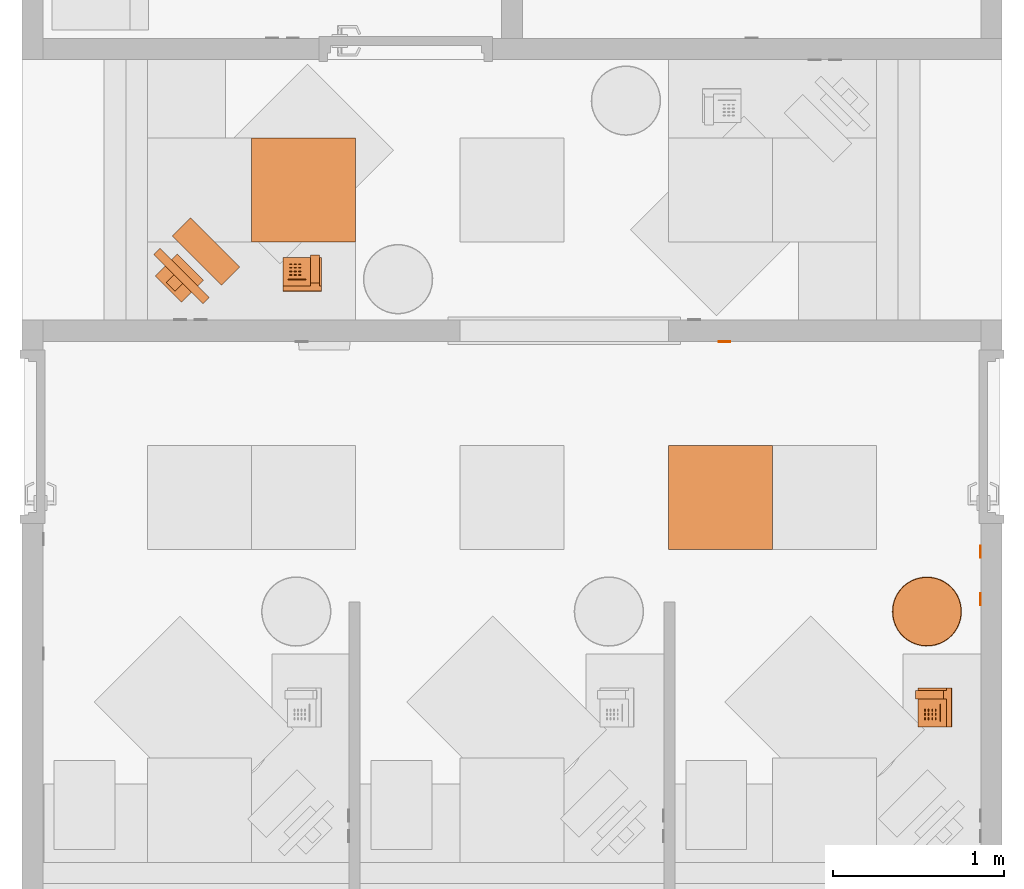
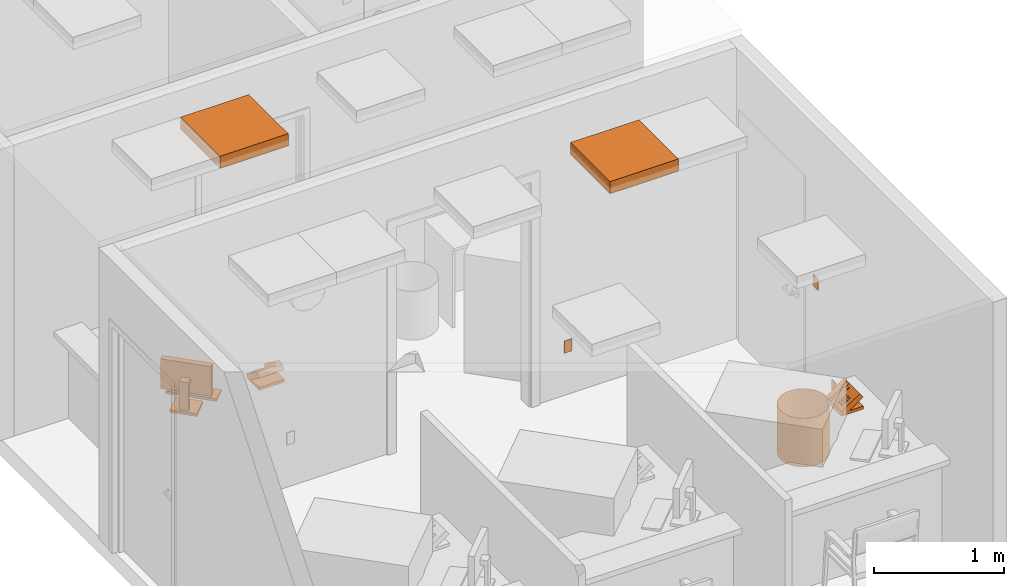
# One storey, part 16 of 20: 9 proxies.
"""IFC2X3 building model written with IfcOpenShell, lengths in feet."""

from ifc_helpers import new_model, entity, si_unit, converted_unit, derived_unit, direction, frame, frame_2d, origin, origin_2d_with_axis, place, context, subcontext, project, spatial, rectangle, circle, hollow_circle, extrude, faceted_brep, source, transform, mapped, type_object, type_shapes, element, save


model = new_model("IFC2X3")

# Units and contexts
model_context = context("Model", 3, precision=0.0001, world=origin(), true_north=direction((6.12303176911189e-17, 1.0)))
body_context = subcontext(model_context, "Body", "Model", "MODEL_VIEW")
ifc_project = project(units=[converted_unit("LENGTHUNIT", "FOOT", entity("IfcRatioMeasure", 0.3048), si_unit("LENGTHUNIT", "METRE"), dimensions=[1, 0, 0, 0, 0, 0, 0]), converted_unit("AREAUNIT", "SQUARE FOOT", entity("IfcRatioMeasure", 0.09290304), si_unit("AREAUNIT", "SQUARE_METRE"), dimensions=[2, 0, 0, 0, 0, 0, 0]), converted_unit("VOLUMEUNIT", "CUBIC FOOT", entity("IfcRatioMeasure", 0.028316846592), si_unit("VOLUMEUNIT", "CUBIC_METRE"), dimensions=[3, 0, 0, 0, 0, 0, 0]), converted_unit("PLANEANGLEUNIT", "DEGREE", entity("IfcRatioMeasure", 0.0174532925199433), si_unit("PLANEANGLEUNIT", "RADIAN"), dimensions=[0, 0, 0, 0, 0, 0, 0]), si_unit("MASSUNIT", "GRAM", prefix="KILO"), derived_unit("MASSDENSITYUNIT", [(si_unit("MASSUNIT", "GRAM", prefix="KILO"), 1), (si_unit("LENGTHUNIT", "METRE"), -3)]), si_unit("TIMEUNIT", "SECOND"), si_unit("FREQUENCYUNIT", "HERTZ"), si_unit("THERMODYNAMICTEMPERATUREUNIT", "DEGREE_CELSIUS"), derived_unit("THERMALTRANSMITTANCEUNIT", [(si_unit("MASSUNIT", "GRAM", prefix="KILO"), 1), (si_unit("THERMODYNAMICTEMPERATUREUNIT", "KELVIN"), -1), (si_unit("TIMEUNIT", "SECOND"), -3)]), derived_unit("VOLUMETRICFLOWRATEUNIT", [(si_unit("LENGTHUNIT", "METRE"), 3), (si_unit("TIMEUNIT", "SECOND"), -1)]), si_unit("ELECTRICCURRENTUNIT", "AMPERE"), si_unit("ELECTRICVOLTAGEUNIT", "VOLT"), si_unit("POWERUNIT", "WATT"), si_unit("FORCEUNIT", "NEWTON"), si_unit("ILLUMINANCEUNIT", "LUX"), si_unit("LUMINOUSFLUXUNIT", "LUMEN"), si_unit("LUMINOUSINTENSITYUNIT", "CANDELA"), derived_unit("USERDEFINED", [(si_unit("MASSUNIT", "GRAM", prefix="KILO"), -1), (si_unit("LENGTHUNIT", "METRE"), -2), (si_unit("TIMEUNIT", "SECOND"), 3), (si_unit("LUMINOUSFLUXUNIT", "LUMEN"), 1)]), derived_unit("LINEARVELOCITYUNIT", [(si_unit("LENGTHUNIT", "METRE"), 1), (si_unit("TIMEUNIT", "SECOND"), -1)]), si_unit("PRESSUREUNIT", "PASCAL"), derived_unit("USERDEFINED", [(si_unit("LENGTHUNIT", "METRE"), -2), (si_unit("MASSUNIT", "GRAM", prefix="KILO"), 1), (si_unit("TIMEUNIT", "SECOND"), -2)])], contexts=[model_context])

# Site, building, storey, space
site_placement = place(None, origin())
site = spatial("IfcSite", under=ifc_project, at=site_placement, Name="Default", CompositionType="ELEMENT")
building_placement = place(site_placement, origin())
building = spatial("IfcBuilding", under=site, at=building_placement, Name="OUTPATIENT / PACT CLINIC (Ch. 265)", CompositionType="ELEMENT")
storey_placement = place(building_placement, origin())
storey = spatial("IfcBuildingStorey", under=building, at=storey_placement, Name="DATUM", CompositionType="ELEMENT", Elevation=0.0)
space_1_placement = place(storey_placement, origin())
space_1 = spatial("IfcSpace", under=storey, at=space_1_placement, Name="RCP03", CompositionType="ELEMENT", InteriorOrExteriorSpace="INTERNAL")

# Proxy
building_element_proxy_type_1 = type_object("IfcBuildingElementProxyType", Name="A1015 Telephone_Desk Multi-Line", PredefinedType="NOTDEFINED")
shared_shape_1 = source(origin(), body_context, "Body", "Brep", [
    faceted_brep([(0.700520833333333, 0.261320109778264, 0.451787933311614), (0.700520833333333, 0.572560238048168, 0.223329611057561), (0.700520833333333, 0.538332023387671, 0.176698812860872), (0.700520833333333, 0.629478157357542, 0.109798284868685), (0.700520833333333, 0.699689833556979, 0.205455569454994), (0.700520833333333, 0.163563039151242, 0.598968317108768), (0.700520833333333, 0.0904130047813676, 0.494499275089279), (0.700520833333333, 0.225161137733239, 0.400147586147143), (0.532645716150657, 0.261320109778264, 0.451787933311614), (0.532645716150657, 0.225161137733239, 0.400147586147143), (0.532645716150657, 0.0904130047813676, 0.494499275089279), (0.532645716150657, 0.163563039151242, 0.598968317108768), (0.532645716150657, 0.699689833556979, 0.205455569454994), (0.532645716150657, 0.629478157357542, 0.109798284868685), (0.532645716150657, 0.538332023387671, 0.176698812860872), (0.532645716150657, 0.572560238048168, 0.223329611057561)], [[[0, 1, 2, 3, 4, 5, 6, 7]], [[8, 9, 10, 11, 12, 13, 14, 15]], [[1, 0, 8, 15]], [[2, 1, 15, 14]], [[3, 2, 14, 13]], [[4, 3, 13, 12]], [[5, 4, 12, 11]], [[6, 5, 11, 10]], [[7, 6, 10, 9]], [[0, 7, 9, 8]]]),
    faceted_brep([(0.297587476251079, 0.457472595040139, 0.295395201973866), (0.344462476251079, 0.457472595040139, 0.295395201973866), (0.344462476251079, 0.49615327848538, 0.268310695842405), (0.297587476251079, 0.49615327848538, 0.268310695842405), (0.297587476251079, 0.442535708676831, 0.274063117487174), (0.297587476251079, 0.481216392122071, 0.246978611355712), (0.344462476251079, 0.481216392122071, 0.246978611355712), (0.344462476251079, 0.442535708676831, 0.274063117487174)], [[[0, 1, 2, 3]], [[4, 5, 6, 7]], [[1, 0, 4, 7]], [[2, 1, 7, 6]], [[3, 2, 6, 5]], [[0, 3, 5, 4]]]),
    faceted_brep([(0.29758747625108, 0.525735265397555, 0.247597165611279), (0.34446247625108, 0.525735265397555, 0.247597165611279), (0.34446247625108, 0.564415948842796, 0.220512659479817), (0.29758747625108, 0.564415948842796, 0.220512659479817), (0.29758747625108, 0.510798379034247, 0.226265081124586), (0.29758747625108, 0.549479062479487, 0.199180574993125), (0.34446247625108, 0.549479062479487, 0.199180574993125), (0.34446247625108, 0.510798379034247, 0.226265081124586)], [[[0, 1, 2, 3]], [[4, 5, 6, 7]], [[1, 0, 4, 7]], [[2, 1, 7, 6]], [[3, 2, 6, 5]], [[0, 3, 5, 4]]]),
    faceted_brep([(0.214254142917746, 0.525735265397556, 0.247597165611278), (0.261129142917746, 0.525735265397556, 0.247597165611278), (0.261129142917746, 0.564415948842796, 0.220512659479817), (0.214254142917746, 0.564415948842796, 0.220512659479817), (0.214254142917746, 0.510798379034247, 0.226265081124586), (0.214254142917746, 0.549479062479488, 0.199180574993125), (0.261129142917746, 0.549479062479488, 0.199180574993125), (0.261129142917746, 0.510798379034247, 0.226265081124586)], [[[0, 1, 2, 3]], [[4, 5, 6, 7]], [[1, 0, 4, 7]], [[2, 1, 7, 6]], [[3, 2, 6, 5]], [[0, 3, 5, 4]]]),
    faceted_brep([(0.130920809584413, 0.525735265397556, 0.247597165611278), (0.177795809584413, 0.525735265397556, 0.247597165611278), (0.177795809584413, 0.564415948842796, 0.220512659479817), (0.130920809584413, 0.564415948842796, 0.220512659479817), (0.130920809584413, 0.510798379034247, 0.226265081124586), (0.130920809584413, 0.549479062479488, 0.199180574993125), (0.177795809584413, 0.549479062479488, 0.199180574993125), (0.177795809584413, 0.510798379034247, 0.226265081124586)], [[[0, 1, 2, 3]], [[4, 5, 6, 7]], [[1, 0, 4, 7]], [[2, 1, 7, 6]], [[3, 2, 6, 5]], [[0, 3, 5, 4]]]),
    faceted_brep([(0.130920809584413, 0.45747259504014, 0.295395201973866), (0.177795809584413, 0.45747259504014, 0.295395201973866), (0.177795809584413, 0.496153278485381, 0.268310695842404), (0.130920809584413, 0.496153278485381, 0.268310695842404), (0.130920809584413, 0.442535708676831, 0.274063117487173), (0.130920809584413, 0.481216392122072, 0.246978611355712), (0.177795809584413, 0.481216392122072, 0.246978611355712), (0.177795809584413, 0.442535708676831, 0.274063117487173)], [[[0, 1, 2, 3]], [[4, 5, 6, 7]], [[1, 0, 4, 7]], [[2, 1, 7, 6]], [[3, 2, 6, 5]], [[0, 3, 5, 4]]]),
    faceted_brep([(0.214254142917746, 0.389209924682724, 0.343193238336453), (0.261129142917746, 0.389209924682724, 0.343193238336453), (0.261129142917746, 0.427890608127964, 0.316108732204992), (0.214254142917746, 0.427890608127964, 0.316108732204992), (0.214254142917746, 0.374273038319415, 0.321861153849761), (0.214254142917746, 0.412953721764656, 0.2947766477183), (0.261129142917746, 0.412953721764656, 0.2947766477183), (0.261129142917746, 0.374273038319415, 0.321861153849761)], [[[0, 1, 2, 3]], [[4, 5, 6, 7]], [[1, 0, 4, 7]], [[2, 1, 7, 6]], [[3, 2, 6, 5]], [[0, 3, 5, 4]]]),
    faceted_brep([(0.130920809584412, 0.389209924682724, 0.343193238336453), (0.177795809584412, 0.389209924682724, 0.343193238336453), (0.177795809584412, 0.427890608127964, 0.316108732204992), (0.130920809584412, 0.427890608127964, 0.316108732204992), (0.130920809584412, 0.374273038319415, 0.321861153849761), (0.130920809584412, 0.412953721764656, 0.2947766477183), (0.177795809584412, 0.412953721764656, 0.2947766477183), (0.177795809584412, 0.374273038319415, 0.321861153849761)], [[[0, 1, 2, 3]], [[4, 5, 6, 7]], [[1, 0, 4, 7]], [[2, 1, 7, 6]], [[3, 2, 6, 5]], [[0, 3, 5, 4]]]),
    faceted_brep([(0.214254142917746, 0.457472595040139, 0.295395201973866), (0.261129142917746, 0.457472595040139, 0.295395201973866), (0.261129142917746, 0.49615327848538, 0.268310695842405), (0.214254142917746, 0.49615327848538, 0.268310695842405), (0.214254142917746, 0.442535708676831, 0.274063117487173), (0.214254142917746, 0.481216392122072, 0.246978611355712), (0.261129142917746, 0.481216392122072, 0.246978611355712), (0.261129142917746, 0.442535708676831, 0.274063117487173)], [[[0, 1, 2, 3]], [[4, 5, 6, 7]], [[1, 0, 4, 7]], [[2, 1, 7, 6]], [[3, 2, 6, 5]], [[0, 3, 5, 4]]]),
    faceted_brep([(0.297587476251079, 0.389209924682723, 0.343193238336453), (0.344462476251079, 0.389209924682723, 0.343193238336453), (0.344462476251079, 0.427890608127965, 0.316108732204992), (0.297587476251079, 0.427890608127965, 0.316108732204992), (0.297587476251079, 0.374273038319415, 0.321861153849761), (0.297587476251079, 0.412953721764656, 0.294776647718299), (0.344462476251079, 0.412953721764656, 0.294776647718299), (0.344462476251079, 0.374273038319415, 0.321861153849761)], [[[0, 1, 2, 3]], [[4, 5, 6, 7]], [[1, 0, 4, 7]], [[2, 1, 7, 6]], [[3, 2, 6, 5]], [[0, 3, 5, 4]]]),
    faceted_brep([(0.130920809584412, 0.320947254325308, 0.39099127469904), (0.177795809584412, 0.320947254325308, 0.39099127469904), (0.177795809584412, 0.359627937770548, 0.363906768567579), (0.130920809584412, 0.359627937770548, 0.363906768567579), (0.130920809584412, 0.306010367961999, 0.369659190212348), (0.130920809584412, 0.34469105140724, 0.342574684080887), (0.177795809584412, 0.34469105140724, 0.342574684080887), (0.177795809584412, 0.306010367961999, 0.369659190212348)], [[[0, 1, 2, 3]], [[4, 5, 6, 7]], [[1, 0, 4, 7]], [[2, 1, 7, 6]], [[3, 2, 6, 5]], [[0, 3, 5, 4]]]),
    faceted_brep([(0.214254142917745, 0.320947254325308, 0.39099127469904), (0.261129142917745, 0.320947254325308, 0.39099127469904), (0.261129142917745, 0.359627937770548, 0.363906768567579), (0.214254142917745, 0.359627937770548, 0.363906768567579), (0.214254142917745, 0.306010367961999, 0.369659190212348), (0.214254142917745, 0.34469105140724, 0.342574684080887), (0.261129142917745, 0.34469105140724, 0.342574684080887), (0.261129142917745, 0.306010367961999, 0.369659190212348)], [[[0, 1, 2, 3]], [[4, 5, 6, 7]], [[1, 0, 4, 7]], [[2, 1, 7, 6]], [[3, 2, 6, 5]], [[0, 3, 5, 4]]]),
    faceted_brep([(0.297587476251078, 0.320947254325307, 0.390991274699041), (0.344462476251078, 0.320947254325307, 0.390991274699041), (0.344462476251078, 0.359627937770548, 0.363906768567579), (0.297587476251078, 0.359627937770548, 0.363906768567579), (0.297587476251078, 0.306010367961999, 0.369659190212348), (0.297587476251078, 0.34469105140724, 0.342574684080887), (0.344462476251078, 0.34469105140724, 0.342574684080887), (0.344462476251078, 0.306010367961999, 0.369659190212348)], [[[0, 1, 2, 3]], [[4, 5, 6, 7]], [[1, 0, 4, 7]], [[2, 1, 7, 6]], [[3, 2, 6, 5]], [[0, 3, 5, 4]]]),
    faceted_brep([(0.739583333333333, 0.584951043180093, 0.0535656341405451), (0.739583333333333, 0.648788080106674, 0.129643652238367), (0.739583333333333, 0.102686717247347, 0.512027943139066), (0.739583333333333, 0.00709064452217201, 0.375502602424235), (0.739583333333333, 0.416666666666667, 0.0887143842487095), (0.739583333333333, 0.0, 0.0887143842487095), (0.739583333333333, 0.0, 0.0), (0.739583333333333, 0.648788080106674, 0.0), (0.0, 0.416666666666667, 0.0887143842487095), (0.0, 0.00709064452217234, 0.375502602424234), (0.0, 0.102686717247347, 0.512027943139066), (0.0, 0.648788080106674, 0.129643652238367), (0.0, 0.584951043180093, 0.0535656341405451), (0.0, 0.648788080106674, 0.0), (0.0, 0.0, 0.0), (0.0, 0.0, 0.0887143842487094), (0.532645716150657, 0.648788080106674, 0.129643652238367), (0.532645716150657, 0.631984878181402, 0.109618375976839), (0.699312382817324, 0.631984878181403, 0.10961837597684), (0.699312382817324, 0.648788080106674, 0.129643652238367), (0.699312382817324, 0.597591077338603, 0.165492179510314), (0.688147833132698, 0.205080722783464, 0.44033088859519), (0.68766856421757, 0.582470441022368, 0.176079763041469), (0.676024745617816, 0.567349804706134, 0.186667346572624), (0.67289677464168, 0.217573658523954, 0.431583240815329), (0.657645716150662, 0.230066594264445, 0.422835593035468), (0.65691415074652, 0.558715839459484, 0.192712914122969), (0.637803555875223, 0.550081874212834, 0.198758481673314), (0.636812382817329, 0.234639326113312, 0.41963373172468), (0.615979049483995, 0.239212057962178, 0.416431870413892), (0.61597904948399, 0.550081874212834, 0.198758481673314), (0.594154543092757, 0.550081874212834, 0.198758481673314), (0.595145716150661, 0.234639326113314, 0.419633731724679), (0.574312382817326, 0.230066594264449, 0.422835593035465), (0.441208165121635, 0.234600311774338, 0.419661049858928), (0.575043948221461, 0.558715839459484, 0.192712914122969), (0.555933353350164, 0.567349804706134, 0.186667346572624), (0.542406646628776, 0.58491555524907, 0.174367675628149), (0.532645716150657, 0.597591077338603, 0.165492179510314), (0.0978645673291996, 0.234600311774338, 0.419661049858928), (0.0978645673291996, 0.166337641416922, 0.467459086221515), (0.532645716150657, 0.102686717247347, 0.512027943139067), (0.441208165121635, 0.166337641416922, 0.467459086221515), (0.532645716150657, 0.170949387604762, 0.46422990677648), (0.538227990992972, 0.188015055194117, 0.452280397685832), (0.543810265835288, 0.205080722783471, 0.440330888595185), (0.559061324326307, 0.21757365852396, 0.431583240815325), (0.693730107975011, 0.188015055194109, 0.452280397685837), (0.699312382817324, 0.170949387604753, 0.464229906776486), (0.699312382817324, 0.102686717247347, 0.512027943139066), (0.699312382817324, 0.0877498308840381, 0.490695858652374), (0.532645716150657, 0.0877498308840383, 0.490695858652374), (0.0978645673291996, 0.151400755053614, 0.446127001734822), (0.441208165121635, 0.151400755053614, 0.446127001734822), (0.441208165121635, 0.219663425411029, 0.398328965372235), (0.0978645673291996, 0.219663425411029, 0.398328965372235), (0.597435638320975, 0.222563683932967, 0.396298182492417), (0.580728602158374, 0.215973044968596, 0.400912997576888), (0.564021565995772, 0.209382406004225, 0.40552781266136), (0.55245993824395, 0.197506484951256, 0.413843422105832), (0.540898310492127, 0.185630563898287, 0.422159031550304), (0.536626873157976, 0.170300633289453, 0.432893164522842), (0.532645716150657, 0.156012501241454, 0.442897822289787), (0.699312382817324, 0.156012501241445, 0.442897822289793), (0.695331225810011, 0.170300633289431, 0.432893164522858), (0.691059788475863, 0.18563056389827, 0.422159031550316), (0.679498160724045, 0.197506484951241, 0.413843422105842), (0.667936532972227, 0.209382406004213, 0.405527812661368), (0.651229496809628, 0.215973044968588, 0.400912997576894), (0.634522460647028, 0.222563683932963, 0.39629818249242), (0.615979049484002, 0.222563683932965, 0.396298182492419), (0.532645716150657, 0.582654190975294, 0.144160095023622), (0.54428953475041, 0.56753355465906, 0.154747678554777), (0.555933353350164, 0.552412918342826, 0.165335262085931), (0.575043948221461, 0.543778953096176, 0.171380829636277), (0.594154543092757, 0.535144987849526, 0.177426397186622), (0.61597904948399, 0.535144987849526, 0.177426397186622), (0.637803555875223, 0.535144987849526, 0.177426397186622), (0.65691415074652, 0.543778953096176, 0.171380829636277), (0.676024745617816, 0.552412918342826, 0.165335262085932), (0.689551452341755, 0.569978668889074, 0.153035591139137), (0.699312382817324, 0.582654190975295, 0.144160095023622)], [[[0, 1, 2, 3, 4, 5, 6, 7]], [[8, 9, 10, 11, 12, 13, 14, 15]], [[0, 7, 13, 12]], [[0, 12, 11, 16, 17, 18, 19, 1]], [[1, 19, 20]], [[21, 1, 20]], [[2, 1, 21]], [[21, 20, 22]], [[21, 22, 23]], [[23, 24, 21]], [[23, 25, 24]], [[25, 23, 26]], [[25, 26, 27]], [[27, 28, 25]], [[27, 29, 28]], [[29, 27, 30]], [[29, 30, 31]], [[31, 32, 29]], [[31, 33, 32]], [[34, 33, 31]], [[34, 31, 35]], [[34, 35, 36]], [[34, 36, 37]], [[34, 37, 38]], [[38, 39, 34]], [[39, 38, 11]], [[38, 16, 11]], [[39, 11, 10]], [[10, 40, 39]], [[10, 41, 40]], [[40, 41, 42]], [[42, 41, 43]], [[42, 43, 44]], [[42, 44, 45]], [[34, 45, 46]], [[42, 45, 34]], [[34, 46, 33]], [[2, 21, 47]], [[2, 47, 48]], [[2, 48, 49]], [[2, 49, 50, 51, 41, 10, 9, 3]], [[4, 3, 9, 8]], [[5, 4, 8, 15]], [[6, 5, 15, 14]], [[7, 6, 14, 13]], [[52, 53, 54, 55]], [[56, 57, 58, 59, 60, 61, 62, 51, 50, 63, 64, 65, 66, 67, 68, 69, 70]], [[17, 71, 72, 73, 74, 75, 76, 77, 78, 79, 80, 81, 18]], [[52, 40, 42, 53]], [[54, 53, 42, 34]], [[54, 34, 39, 55]], [[55, 39, 40, 52]], [[50, 49, 48, 63]], [[18, 81, 20, 19]], [[64, 63, 48]], [[56, 29, 32]], [[33, 57, 32]], [[66, 24, 67]], [[64, 47, 65]], [[21, 65, 47]], [[28, 68, 25]], [[65, 21, 66]], [[68, 28, 69]], [[47, 64, 48]], [[56, 32, 57]], [[45, 60, 59]], [[45, 59, 46]], [[56, 70, 69, 29]], [[33, 58, 57]], [[45, 44, 60]], [[43, 62, 61]], [[33, 46, 58]], [[24, 66, 21]], [[58, 46, 59]], [[44, 43, 61]], [[24, 25, 67]], [[29, 69, 28]], [[68, 67, 25]], [[61, 60, 44]], [[62, 43, 41, 51]], [[17, 16, 38, 71]], [[73, 72, 71, 38, 37, 36]], [[20, 81, 80, 79, 23, 22]], [[36, 35, 31, 75, 74, 73]], [[77, 76, 75, 31, 30, 27]], [[27, 26, 23, 79, 78, 77]]]),
])
type_shapes(building_element_proxy_type_1, [shared_shape_1])
proxy_1_placement = place(space_1_placement, frame((73.7097765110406, -862.322290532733, 2.49999999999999), z_axis=(0.0, 0.0, 1.0), x_axis=(0.0, 1.0, 0.0)))
element("IfcBuildingElementProxy", 1, at=proxy_1_placement, inside=space_1, type_object=building_element_proxy_type_1, Name="A1015 - Telephone, Desk, Multiple Line:A1015 Telephone_Desk Multi-Line", ObjectType="A1015 Telephone_Desk Multi-Line", context=body_context, shape_type="MappedRepresentation", body=[
    mapped(shared_shape_1, transform((0.0, 0.0, 0.0), scale=1.0)),
])

# Space
space_2_placement = place(storey_placement, origin())
space_2 = spatial("IfcSpace", under=storey, at=space_2_placement, CompositionType="ELEMENT", InteriorOrExteriorSpace="INTERNAL")

# Proxies
proxy_2_placement = place(space_2_placement, frame((60.8666622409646, -853.96425242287, 2.49999999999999)))
element("IfcBuildingElementProxy", 2, at=proxy_2_placement, inside=space_2, type_object=building_element_proxy_type_1, Name="A1015 - Telephone, Desk, Multiple Line:A1015 Telephone_Desk Multi-Line", ObjectType="A1015 Telephone_Desk Multi-Line", context=body_context, shape_type="MappedRepresentation", body=[
    mapped(shared_shape_1, transform((0.0, 0.0, 0.0), scale=1.0)),
])
building_element_proxy_type_2 = type_object("IfcBuildingElementProxyType", Name="F2000 - Basket, Wastepaper", PredefinedType="NOTDEFINED")
shared_shape_2 = source(origin(), body_context, "Body", "SweptSolid", [
    extrude(circle(Radius=0.666666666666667, at=frame_2d((0.0, -1.07702971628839e-15), x_axis=(1.0, 0.0))), origin(), (0.0, 0.0, 1.0), 0.0104166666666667),
    extrude(hollow_circle(Radius=0.666666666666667, WallThickness=0.0104166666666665, at=frame_2d((0.0, -1.07702971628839e-15), x_axis=(1.0, 0.0))), frame((0.0, 0.0, 0.0104166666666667)), (0.0, 0.0, 1.0), 1.48958333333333),
])
type_shapes(building_element_proxy_type_2, [shared_shape_2])
proxy_3_placement = place(space_1_placement, frame((73.2276550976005, -860.111353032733, 0.0), z_axis=(0.0, 0.0, 1.0), x_axis=(-1.0, 0.0, 0.0)))
element("IfcBuildingElementProxy", 3, at=proxy_3_placement, inside=space_1, type_object=building_element_proxy_type_2, Name="F2000 - Basket, Wastepaper:F2000 - Basket, Wastepaper", ObjectType="F2000 - Basket, Wastepaper", context=body_context, shape_type="MappedRepresentation", body=[
    mapped(shared_shape_2, transform((0.0, 0.0, 0.0), scale=1.0)),
])
building_element_proxy_type_3 = type_object("IfcBuildingElementProxyType", Name="M1801 - Computer with Flat Panel Monitor", PredefinedType="NOTDEFINED")
shared_shape_3 = source(origin(), body_context, "Body", "Brep", [
    faceted_brep([(0.666666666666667, -0.5625, 0.0), (0.666666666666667, -0.0624999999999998, 0.0), (0.666666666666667, -0.0624999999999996, 0.0833333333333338), (0.666666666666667, -0.5625, 0.0416666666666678), (-0.666666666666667, -0.5625, 0.0), (-0.666666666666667, -0.5625, 0.0416666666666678), (-0.666666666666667, -0.0624999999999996, 0.0833333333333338), (-0.666666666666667, -0.0624999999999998, 0.0)], [[[0, 1, 2, 3]], [[4, 5, 6, 7]], [[1, 0, 4, 7]], [[2, 1, 7, 6]], [[3, 2, 6, 5]], [[0, 3, 5, 4]]]),
    faceted_brep([(0.666666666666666, 0.437223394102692, 1.41666666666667), (-0.666666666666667, 0.437223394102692, 1.41666666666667), (-0.666666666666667, 0.271109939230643, 1.41666666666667), (0.666666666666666, 0.271109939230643, 1.41666666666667), (0.666666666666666, 0.437223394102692, 0.500000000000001), (0.666666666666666, 0.271109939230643, 0.500000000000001), (-0.666666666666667, 0.271109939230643, 0.500000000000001), (-0.666666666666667, 0.437223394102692, 0.500000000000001), (-0.625, 0.271109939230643, 1.375), (0.625, 0.271109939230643, 1.375), (0.625, 0.271109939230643, 0.541666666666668), (-0.625, 0.271109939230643, 0.541666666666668), (0.625, 0.286812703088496, 1.375), (-0.625, 0.286812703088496, 1.375), (0.625, 0.286812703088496, 0.541666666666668), (-0.625, 0.286812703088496, 0.541666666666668)], [[[0, 1, 2, 3]], [[4, 5, 6, 7]], [[1, 0, 4, 7]], [[2, 1, 7, 6]], [[3, 2, 6, 5], [8, 9, 10, 11]], [[0, 3, 5, 4]], [[12, 9, 8, 13]], [[14, 15, 11, 10]], [[12, 13, 15, 14]], [[13, 8, 11, 15]], [[9, 12, 14, 10]]]),
    faceted_brep([(0.358011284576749, 0.111770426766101, 0.0833333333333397), (0.358011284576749, 0.111770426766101, 0.0), (0.358011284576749, 0.708333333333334, 0.0), (0.358011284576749, 0.708333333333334, 0.0833333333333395), (-0.358011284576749, 0.708333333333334, 0.0833333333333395), (-0.358011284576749, 0.708333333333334, 0.0), (-0.358011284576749, 0.111770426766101, 0.0), (-0.358011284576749, 0.111770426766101, 0.0833333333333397), (0.12128795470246, 0.645556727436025, 0.104166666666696), (0.12128795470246, 0.645556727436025, 0.0833333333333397), (-0.12128795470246, 0.645556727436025, 0.0833333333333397), (-0.12128795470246, 0.645556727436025, 0.104166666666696), (0.12128795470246, 0.645556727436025, 0.958333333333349), (-0.12128795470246, 0.645556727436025, 0.958333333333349), (0.12128795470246, 0.437223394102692, 0.958333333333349), (-0.12128795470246, 0.437223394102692, 0.958333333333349), (0.12128795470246, 0.437223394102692, 0.791666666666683), (-0.12128795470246, 0.437223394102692, 0.791666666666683), (0.12128795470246, 0.562223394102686, 0.791666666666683), (-0.12128795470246, 0.562223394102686, 0.791666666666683), (0.12128795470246, 0.562223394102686, 0.0833333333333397), (-0.12128795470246, 0.562223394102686, 0.0833333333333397)], [[[0, 1, 2, 3]], [[4, 5, 6, 7]], [[8, 9, 10, 11]], [[12, 8, 11, 13]], [[14, 12, 13, 15]], [[16, 14, 15, 17]], [[18, 16, 17, 19]], [[20, 18, 19, 21]], [[0, 3, 4, 7], [9, 20, 21, 10]], [[1, 0, 7, 6]], [[2, 1, 6, 5]], [[3, 2, 5, 4]], [[20, 9, 8, 12, 14, 16, 18]], [[10, 21, 19, 17, 15, 13, 11]]]),
])
type_shapes(building_element_proxy_type_3, [shared_shape_3])
proxy_4_placement = place(space_2_placement, frame((59.1711358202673, -853.422142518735, 2.49999999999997), z_axis=(0.0, 0.0, 1.0), x_axis=(-0.707106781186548, 0.707106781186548, 0.0)))
element("IfcBuildingElementProxy", 4, at=proxy_4_placement, inside=space_2, type_object=building_element_proxy_type_3, Name="M1801 - Computer with Flat Panel Monitor:M1801 - Computer with Flat Panel Monitor", ObjectType="M1801 - Computer with Flat Panel Monitor", context=body_context, shape_type="MappedRepresentation", body=[
    mapped(shared_shape_3, transform((0.0, 0.0, 0.0), scale=1.0)),
])
building_element_proxy_type_4 = type_object("IfcBuildingElementProxyType", Name="24\" x 24\"", PredefinedType="NOTDEFINED")
shared_shape_4 = source(origin(), body_context, "Body", "SweptSolid", [
    extrude(rectangle(XDim=2.00000000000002, YDim=2.00000000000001, at=origin_2d_with_axis()), frame((0.0, 0.0, 8.0), z_axis=(0.0, 0.0, 1.0), x_axis=(0.0, 1.0, 0.0)), (0.0, 0.0, 1.0), 0.375),
])
type_shapes(building_element_proxy_type_4, [shared_shape_4])
proxy_5_placement = place(space_2_placement, frame((61.2641134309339, -852.018589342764, 1.0)))
element("IfcBuildingElementProxy", 5, at=proxy_5_placement, inside=space_2, type_object=building_element_proxy_type_4, Name="Supply Diffuser:24\" x 24\"", ObjectType="24\" x 24\"", context=body_context, shape_type="MappedRepresentation", body=[
    mapped(shared_shape_4, transform((0.0, 0.0, 0.0), scale=1.0)),
])
building_element_proxy_type_5 = type_object("IfcBuildingElementProxyType", Name="24\" x 24\"", PredefinedType="NOTDEFINED")
shared_shape_5 = source(origin(), body_context, "Body", "SweptSolid", [
    extrude(rectangle(XDim=2.0, YDim=2.0, at=origin_2d_with_axis()), frame((0.0, 0.0, 8.0)), (0.0, 0.0, 1.0), 0.375),
])
type_shapes(building_element_proxy_type_5, [shared_shape_5])
proxy_6_placement = place(space_1_placement, frame((69.2641134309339, -857.924839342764, 1.0)))
element("IfcBuildingElementProxy", 6, at=proxy_6_placement, inside=space_1, type_object=building_element_proxy_type_5, Name="Return Register:24\" x 24\"", ObjectType="24\" x 24\"", context=body_context, shape_type="MappedRepresentation", body=[
    mapped(shared_shape_5, transform((0.0, 0.0, 0.0), scale=1.0)),
])
building_element_proxy_type_6 = type_object("IfcBuildingElementProxyType", Name="Duplex", PredefinedType="NOTDEFINED")
shared_shape_6 = source(origin(), body_context, "Body", "SweptSolid", [
    extrude(rectangle(XDim=0.0156249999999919, YDim=0.229166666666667, at=origin_2d_with_axis()), frame((0.0, 0.210937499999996, 0.0), z_axis=(0.0, 0.0, 1.0), x_axis=(0.0, 1.0, 0.0)), (0.0, 0.0, 1.0), 0.37500000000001),
])
type_shapes(building_element_proxy_type_6, [shared_shape_6])
for number, where, z_axis, x_axis, name in (
    (7, (69.3422384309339, -854.721714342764, 1.3125), (0.0, 0.0, 1.0), (-1.0, 0.0, 0.0), "Outlet, Duplex, Wall:Duplex"),
    (8, (74.4672384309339, -859.877964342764, 1.3125), (0.0, 0.0, 1.0), (0.0, 1.0, 0.0), "Outlet, Duplex, Wall:Duplex"),
):
    element("IfcBuildingElementProxy", number, at=place(space_1_placement, frame(where, z_axis=z_axis, x_axis=x_axis)), inside=space_1, type_object=building_element_proxy_type_6, Name=name, ObjectType="Duplex", context=body_context, shape_type="MappedRepresentation", body=[
        mapped(shared_shape_6, transform((0.0, 0.0, 0.0), scale=1.0)),
    ])
building_element_proxy_type_7 = type_object("IfcBuildingElementProxyType", Name="Single", PredefinedType="NOTDEFINED")
shared_shape_7 = source(origin(), body_context, "Body", "SweptSolid", [
    extrude(rectangle(XDim=0.0156249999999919, YDim=0.229166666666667, at=frame_2d((0.0, -1.11022302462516e-16), x_axis=(1.0, 0.0))), frame((0.0, 0.210937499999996, 0.0), z_axis=(0.0, 0.0, 1.0), x_axis=(0.0, 1.0, 0.0)), (0.0, 0.0, 1.0), 0.37500000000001),
])
type_shapes(building_element_proxy_type_7, [shared_shape_7])
proxy_7_placement = place(space_1_placement, frame((74.4672384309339, -858.961297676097, 4.0), z_axis=(0.0, 0.0, 1.0), x_axis=(0.0, 1.0, 0.0)))
element("IfcBuildingElementProxy", 9, at=proxy_7_placement, inside=space_1, type_object=building_element_proxy_type_7, Name="Switch, Single:Single", ObjectType="Single", context=body_context, shape_type="MappedRepresentation", body=[
    mapped(shared_shape_7, transform((0.0, 0.0, 0.0), scale=1.0)),
])

save(model, "model.ifc")
